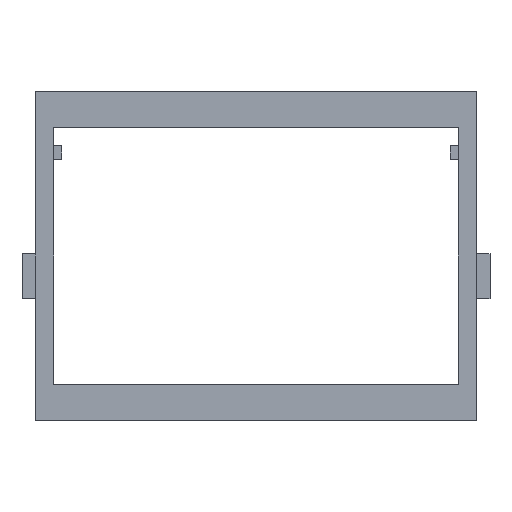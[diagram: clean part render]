
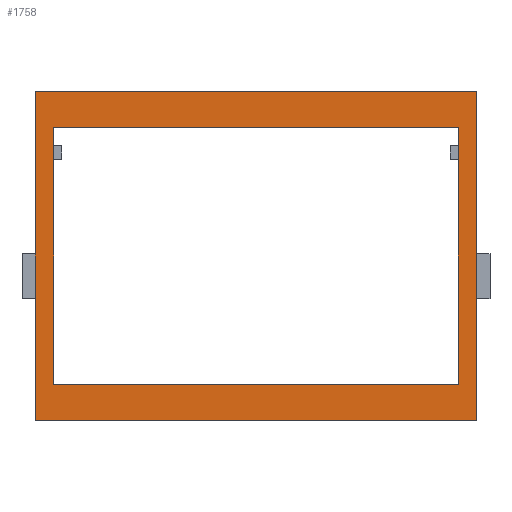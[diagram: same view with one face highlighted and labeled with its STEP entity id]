
A CAD part, front view. The second image highlights one B-rep face of the part: STEP entity #1758.
In plain terms, the highlighted planar face has unit normal (0, -1, 0).
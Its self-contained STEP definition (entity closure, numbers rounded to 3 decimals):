
#22 = VERTEX_POINT('',#23);
#23 = CARTESIAN_POINT('',(36.,80.4,86.));
#32 = PLANE('',#33);
#33 = AXIS2_PLACEMENT_3D('',#34,#35,#36);
#34 = CARTESIAN_POINT('',(36.,80.4,13.));
#35 = DIRECTION('',(1.,0.,0.));
#36 = DIRECTION('',(0.,0.,1.));
#44 = PLANE('',#45);
#45 = AXIS2_PLACEMENT_3D('',#46,#47,#48);
#46 = CARTESIAN_POINT('',(36.,80.4,86.));
#47 = DIRECTION('',(0.,0.,1.));
#48 = DIRECTION('',(1.,0.,0.));
#56 = EDGE_CURVE('',#57,#22,#59,.T.);
#57 = VERTEX_POINT('',#58);
#58 = CARTESIAN_POINT('',(36.,80.4,13.));
#59 = SURFACE_CURVE('',#60,(#64,#71),.PCURVE_S1.);
#60 = LINE('',#61,#62);
#61 = CARTESIAN_POINT('',(36.,80.4,13.));
#62 = VECTOR('',#63,1.);
#63 = DIRECTION('',(0.,0.,1.));
#64 = PCURVE('',#32,#65);
#65 = DEFINITIONAL_REPRESENTATION('',(#66),#70);
#66 = LINE('',#67,#68);
#67 = CARTESIAN_POINT('',(0.,0.));
#68 = VECTOR('',#69,1.);
#69 = DIRECTION('',(1.,0.));
#70 = ( GEOMETRIC_REPRESENTATION_CONTEXT(2) 
PARAMETRIC_REPRESENTATION_CONTEXT() REPRESENTATION_CONTEXT('2D SPACE',''
  ) );
#71 = PCURVE('',#72,#77);
#72 = PLANE('',#73);
#73 = AXIS2_PLACEMENT_3D('',#74,#75,#76);
#74 = CARTESIAN_POINT('',(36.,80.4,13.));
#75 = DIRECTION('',(0.,1.,0.));
#76 = DIRECTION('',(0.,0.,1.));
#77 = DEFINITIONAL_REPRESENTATION('',(#78),#82);
#78 = LINE('',#79,#80);
#79 = CARTESIAN_POINT('',(0.,0.));
#80 = VECTOR('',#81,1.);
#81 = DIRECTION('',(1.,0.));
#82 = ( GEOMETRIC_REPRESENTATION_CONTEXT(2) 
PARAMETRIC_REPRESENTATION_CONTEXT() REPRESENTATION_CONTEXT('2D SPACE',''
  ) );
#100 = PLANE('',#101);
#101 = AXIS2_PLACEMENT_3D('',#102,#103,#104);
#102 = CARTESIAN_POINT('',(36.,80.4,13.));
#103 = DIRECTION('',(0.,0.,1.));
#104 = DIRECTION('',(1.,0.,0.));
#243 = EDGE_CURVE('',#22,#244,#246,.T.);
#244 = VERTEX_POINT('',#245);
#245 = CARTESIAN_POINT('',(134.,80.4,86.));
#246 = SURFACE_CURVE('',#247,(#251,#258),.PCURVE_S1.);
#247 = LINE('',#248,#249);
#248 = CARTESIAN_POINT('',(36.,80.4,86.));
#249 = VECTOR('',#250,1.);
#250 = DIRECTION('',(1.,0.,0.));
#251 = PCURVE('',#44,#252);
#252 = DEFINITIONAL_REPRESENTATION('',(#253),#257);
#253 = LINE('',#254,#255);
#254 = CARTESIAN_POINT('',(0.,0.));
#255 = VECTOR('',#256,1.);
#256 = DIRECTION('',(1.,0.));
#257 = ( GEOMETRIC_REPRESENTATION_CONTEXT(2) 
PARAMETRIC_REPRESENTATION_CONTEXT() REPRESENTATION_CONTEXT('2D SPACE',''
  ) );
#258 = PCURVE('',#72,#259);
#259 = DEFINITIONAL_REPRESENTATION('',(#260),#264);
#260 = LINE('',#261,#262);
#261 = CARTESIAN_POINT('',(73.,0.));
#262 = VECTOR('',#263,1.);
#263 = DIRECTION('',(0.,1.));
#264 = ( GEOMETRIC_REPRESENTATION_CONTEXT(2) 
PARAMETRIC_REPRESENTATION_CONTEXT() REPRESENTATION_CONTEXT('2D SPACE',''
  ) );
#282 = PLANE('',#283);
#283 = AXIS2_PLACEMENT_3D('',#284,#285,#286);
#284 = CARTESIAN_POINT('',(134.,80.4,13.));
#285 = DIRECTION('',(1.,0.,0.));
#286 = DIRECTION('',(0.,0.,1.));
#1184 = PLANE('',#1185);
#1185 = AXIS2_PLACEMENT_3D('',#1186,#1187,#1188);
#1186 = CARTESIAN_POINT('',(40.,80.3,78.));
#1187 = DIRECTION('',(0.,0.,1.));
#1188 = DIRECTION('',(1.,0.,0.));
#1210 = PLANE('',#1211);
#1211 = AXIS2_PLACEMENT_3D('',#1212,#1213,#1214);
#1212 = CARTESIAN_POINT('',(40.,80.3,21.));
#1213 = DIRECTION('',(1.,0.,0.));
#1214 = DIRECTION('',(0.,0.,1.));
#1236 = PLANE('',#1237);
#1237 = AXIS2_PLACEMENT_3D('',#1238,#1239,#1240);
#1238 = CARTESIAN_POINT('',(40.,80.3,21.));
#1239 = DIRECTION('',(0.,0.,1.));
#1240 = DIRECTION('',(1.,0.,0.));
#1260 = PLANE('',#1261);
#1261 = AXIS2_PLACEMENT_3D('',#1262,#1263,#1264);
#1262 = CARTESIAN_POINT('',(130.,80.3,21.));
#1263 = DIRECTION('',(1.,0.,0.));
#1264 = DIRECTION('',(0.,0.,1.));
#1714 = EDGE_CURVE('',#57,#1715,#1717,.T.);
#1715 = VERTEX_POINT('',#1716);
#1716 = CARTESIAN_POINT('',(134.,80.4,13.));
#1717 = SURFACE_CURVE('',#1718,(#1722,#1729),.PCURVE_S1.);
#1718 = LINE('',#1719,#1720);
#1719 = CARTESIAN_POINT('',(36.,80.4,13.));
#1720 = VECTOR('',#1721,1.);
#1721 = DIRECTION('',(1.,0.,0.));
#1722 = PCURVE('',#100,#1723);
#1723 = DEFINITIONAL_REPRESENTATION('',(#1724),#1728);
#1724 = LINE('',#1725,#1726);
#1725 = CARTESIAN_POINT('',(0.,0.));
#1726 = VECTOR('',#1727,1.);
#1727 = DIRECTION('',(1.,0.));
#1728 = ( GEOMETRIC_REPRESENTATION_CONTEXT(2) 
PARAMETRIC_REPRESENTATION_CONTEXT() REPRESENTATION_CONTEXT('2D SPACE',''
  ) );
#1729 = PCURVE('',#72,#1730);
#1730 = DEFINITIONAL_REPRESENTATION('',(#1731),#1735);
#1731 = LINE('',#1732,#1733);
#1732 = CARTESIAN_POINT('',(0.,0.));
#1733 = VECTOR('',#1734,1.);
#1734 = DIRECTION('',(0.,1.));
#1735 = ( GEOMETRIC_REPRESENTATION_CONTEXT(2) 
PARAMETRIC_REPRESENTATION_CONTEXT() REPRESENTATION_CONTEXT('2D SPACE',''
  ) );
#1758 = ADVANCED_FACE('',(#1759,#1785),#72,.F.);
#1759 = FACE_BOUND('',#1760,.F.);
#1760 = EDGE_LOOP('',(#1761,#1762,#1763,#1764));
#1761 = ORIENTED_EDGE('',*,*,#1714,.F.);
#1762 = ORIENTED_EDGE('',*,*,#56,.T.);
#1763 = ORIENTED_EDGE('',*,*,#243,.T.);
#1764 = ORIENTED_EDGE('',*,*,#1765,.F.);
#1765 = EDGE_CURVE('',#1715,#244,#1766,.T.);
#1766 = SURFACE_CURVE('',#1767,(#1771,#1778),.PCURVE_S1.);
#1767 = LINE('',#1768,#1769);
#1768 = CARTESIAN_POINT('',(134.,80.4,13.));
#1769 = VECTOR('',#1770,1.);
#1770 = DIRECTION('',(0.,0.,1.));
#1771 = PCURVE('',#72,#1772);
#1772 = DEFINITIONAL_REPRESENTATION('',(#1773),#1777);
#1773 = LINE('',#1774,#1775);
#1774 = CARTESIAN_POINT('',(0.,98.));
#1775 = VECTOR('',#1776,1.);
#1776 = DIRECTION('',(1.,0.));
#1777 = ( GEOMETRIC_REPRESENTATION_CONTEXT(2) 
PARAMETRIC_REPRESENTATION_CONTEXT() REPRESENTATION_CONTEXT('2D SPACE',''
  ) );
#1778 = PCURVE('',#282,#1779);
#1779 = DEFINITIONAL_REPRESENTATION('',(#1780),#1784);
#1780 = LINE('',#1781,#1782);
#1781 = CARTESIAN_POINT('',(0.,0.));
#1782 = VECTOR('',#1783,1.);
#1783 = DIRECTION('',(1.,0.));
#1784 = ( GEOMETRIC_REPRESENTATION_CONTEXT(2) 
PARAMETRIC_REPRESENTATION_CONTEXT() REPRESENTATION_CONTEXT('2D SPACE',''
  ) );
#1785 = FACE_BOUND('',#1786,.F.);
#1786 = EDGE_LOOP('',(#1787,#1810,#1831,#1852));
#1787 = ORIENTED_EDGE('',*,*,#1788,.F.);
#1788 = EDGE_CURVE('',#1789,#1791,#1793,.T.);
#1789 = VERTEX_POINT('',#1790);
#1790 = CARTESIAN_POINT('',(40.,80.4,78.));
#1791 = VERTEX_POINT('',#1792);
#1792 = CARTESIAN_POINT('',(130.,80.4,78.));
#1793 = SURFACE_CURVE('',#1794,(#1798,#1804),.PCURVE_S1.);
#1794 = LINE('',#1795,#1796);
#1795 = CARTESIAN_POINT('',(38.,80.4,78.));
#1796 = VECTOR('',#1797,1.);
#1797 = DIRECTION('',(1.,0.,0.));
#1798 = PCURVE('',#72,#1799);
#1799 = DEFINITIONAL_REPRESENTATION('',(#1800),#1803);
#1800 = B_SPLINE_CURVE_WITH_KNOTS('',1,(#1801,#1802),.UNSPECIFIED.,.F.,
  .F.,(2,2),(2.,92.),.PIECEWISE_BEZIER_KNOTS.);
#1801 = CARTESIAN_POINT('',(65.,4.));
#1802 = CARTESIAN_POINT('',(65.,94.));
#1803 = ( GEOMETRIC_REPRESENTATION_CONTEXT(2) 
PARAMETRIC_REPRESENTATION_CONTEXT() REPRESENTATION_CONTEXT('2D SPACE',''
  ) );
#1804 = PCURVE('',#1184,#1805);
#1805 = DEFINITIONAL_REPRESENTATION('',(#1806),#1809);
#1806 = B_SPLINE_CURVE_WITH_KNOTS('',1,(#1807,#1808),.UNSPECIFIED.,.F.,
  .F.,(2,2),(2.,92.),.PIECEWISE_BEZIER_KNOTS.);
#1807 = CARTESIAN_POINT('',(0.,0.1));
#1808 = CARTESIAN_POINT('',(90.,0.1));
#1809 = ( GEOMETRIC_REPRESENTATION_CONTEXT(2) 
PARAMETRIC_REPRESENTATION_CONTEXT() REPRESENTATION_CONTEXT('2D SPACE',''
  ) );
#1810 = ORIENTED_EDGE('',*,*,#1811,.T.);
#1811 = EDGE_CURVE('',#1789,#1812,#1814,.T.);
#1812 = VERTEX_POINT('',#1813);
#1813 = CARTESIAN_POINT('',(40.,80.4,21.));
#1814 = SURFACE_CURVE('',#1815,(#1819,#1825),.PCURVE_S1.);
#1815 = LINE('',#1816,#1817);
#1816 = CARTESIAN_POINT('',(40.,80.4,17.));
#1817 = VECTOR('',#1818,1.);
#1818 = DIRECTION('',(0.,0.,-1.));
#1819 = PCURVE('',#72,#1820);
#1820 = DEFINITIONAL_REPRESENTATION('',(#1821),#1824);
#1821 = B_SPLINE_CURVE_WITH_KNOTS('',1,(#1822,#1823),.UNSPECIFIED.,.F.,
  .F.,(2,2),(-61.,-4.),.PIECEWISE_BEZIER_KNOTS.);
#1822 = CARTESIAN_POINT('',(65.,4.));
#1823 = CARTESIAN_POINT('',(8.,4.));
#1824 = ( GEOMETRIC_REPRESENTATION_CONTEXT(2) 
PARAMETRIC_REPRESENTATION_CONTEXT() REPRESENTATION_CONTEXT('2D SPACE',''
  ) );
#1825 = PCURVE('',#1210,#1826);
#1826 = DEFINITIONAL_REPRESENTATION('',(#1827),#1830);
#1827 = B_SPLINE_CURVE_WITH_KNOTS('',1,(#1828,#1829),.UNSPECIFIED.,.F.,
  .F.,(2,2),(-61.,-4.),.PIECEWISE_BEZIER_KNOTS.);
#1828 = CARTESIAN_POINT('',(57.,-0.1));
#1829 = CARTESIAN_POINT('',(0.,-0.1));
#1830 = ( GEOMETRIC_REPRESENTATION_CONTEXT(2) 
PARAMETRIC_REPRESENTATION_CONTEXT() REPRESENTATION_CONTEXT('2D SPACE',''
  ) );
#1831 = ORIENTED_EDGE('',*,*,#1832,.T.);
#1832 = EDGE_CURVE('',#1812,#1833,#1835,.T.);
#1833 = VERTEX_POINT('',#1834);
#1834 = CARTESIAN_POINT('',(130.,80.4,21.));
#1835 = SURFACE_CURVE('',#1836,(#1840,#1846),.PCURVE_S1.);
#1836 = LINE('',#1837,#1838);
#1837 = CARTESIAN_POINT('',(38.,80.4,21.));
#1838 = VECTOR('',#1839,1.);
#1839 = DIRECTION('',(1.,0.,0.));
#1840 = PCURVE('',#72,#1841);
#1841 = DEFINITIONAL_REPRESENTATION('',(#1842),#1845);
#1842 = B_SPLINE_CURVE_WITH_KNOTS('',1,(#1843,#1844),.UNSPECIFIED.,.F.,
  .F.,(2,2),(2.,92.),.PIECEWISE_BEZIER_KNOTS.);
#1843 = CARTESIAN_POINT('',(8.,4.));
#1844 = CARTESIAN_POINT('',(8.,94.));
#1845 = ( GEOMETRIC_REPRESENTATION_CONTEXT(2) 
PARAMETRIC_REPRESENTATION_CONTEXT() REPRESENTATION_CONTEXT('2D SPACE',''
  ) );
#1846 = PCURVE('',#1236,#1847);
#1847 = DEFINITIONAL_REPRESENTATION('',(#1848),#1851);
#1848 = B_SPLINE_CURVE_WITH_KNOTS('',1,(#1849,#1850),.UNSPECIFIED.,.F.,
  .F.,(2,2),(2.,92.),.PIECEWISE_BEZIER_KNOTS.);
#1849 = CARTESIAN_POINT('',(0.,0.1));
#1850 = CARTESIAN_POINT('',(90.,0.1));
#1851 = ( GEOMETRIC_REPRESENTATION_CONTEXT(2) 
PARAMETRIC_REPRESENTATION_CONTEXT() REPRESENTATION_CONTEXT('2D SPACE',''
  ) );
#1852 = ORIENTED_EDGE('',*,*,#1853,.F.);
#1853 = EDGE_CURVE('',#1791,#1833,#1854,.T.);
#1854 = SURFACE_CURVE('',#1855,(#1859,#1865),.PCURVE_S1.);
#1855 = LINE('',#1856,#1857);
#1856 = CARTESIAN_POINT('',(130.,80.4,17.));
#1857 = VECTOR('',#1858,1.);
#1858 = DIRECTION('',(0.,0.,-1.));
#1859 = PCURVE('',#72,#1860);
#1860 = DEFINITIONAL_REPRESENTATION('',(#1861),#1864);
#1861 = B_SPLINE_CURVE_WITH_KNOTS('',1,(#1862,#1863),.UNSPECIFIED.,.F.,
  .F.,(2,2),(-61.,-4.),.PIECEWISE_BEZIER_KNOTS.);
#1862 = CARTESIAN_POINT('',(65.,94.));
#1863 = CARTESIAN_POINT('',(8.,94.));
#1864 = ( GEOMETRIC_REPRESENTATION_CONTEXT(2) 
PARAMETRIC_REPRESENTATION_CONTEXT() REPRESENTATION_CONTEXT('2D SPACE',''
  ) );
#1865 = PCURVE('',#1260,#1866);
#1866 = DEFINITIONAL_REPRESENTATION('',(#1867),#1870);
#1867 = B_SPLINE_CURVE_WITH_KNOTS('',1,(#1868,#1869),.UNSPECIFIED.,.F.,
  .F.,(2,2),(-61.,-4.),.PIECEWISE_BEZIER_KNOTS.);
#1868 = CARTESIAN_POINT('',(57.,-0.1));
#1869 = CARTESIAN_POINT('',(0.,-0.1));
#1870 = ( GEOMETRIC_REPRESENTATION_CONTEXT(2) 
PARAMETRIC_REPRESENTATION_CONTEXT() REPRESENTATION_CONTEXT('2D SPACE',''
  ) );
